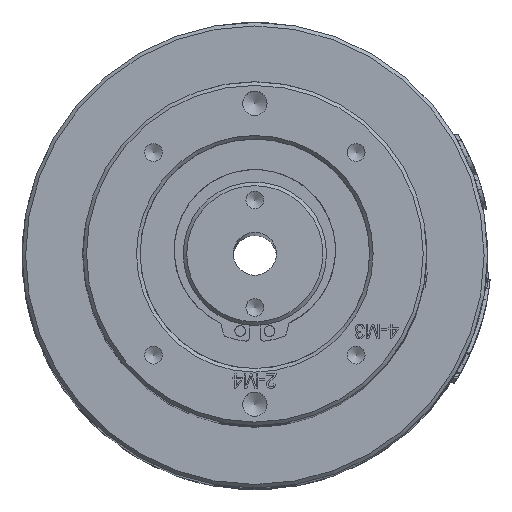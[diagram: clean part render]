
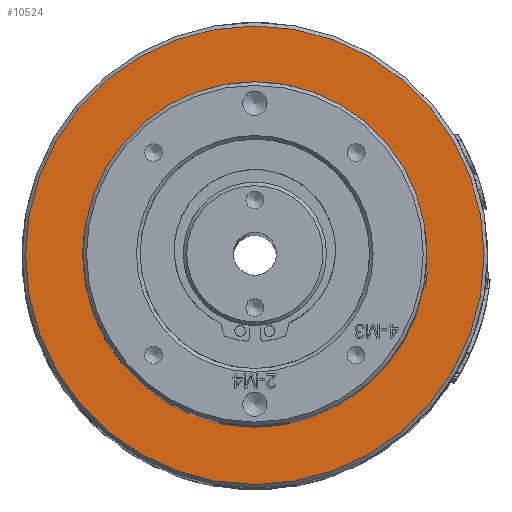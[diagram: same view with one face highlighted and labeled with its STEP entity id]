
A CAD part, top view. The second image highlights one B-rep face of the part: STEP entity #10524.
In plain terms, the highlighted planar face has unit normal (0, 0, 1).
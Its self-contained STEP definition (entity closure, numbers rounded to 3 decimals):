
#7550=PLANE('',#32967);
#10524=ADVANCED_FACE('',(#11923,#11924),#7550,.T.);
#11923=FACE_BOUND('',#13764,.T.);
#11924=FACE_BOUND('',#13765,.T.);
#13764=EDGE_LOOP('',(#19472));
#13765=EDGE_LOOP('',(#19473));
#19472=ORIENTED_EDGE('',*,*,#30086,.T.);
#19473=ORIENTED_EDGE('',*,*,#30087,.F.);
#25974=VERTEX_POINT('',#59094);
#25975=VERTEX_POINT('',#59096);
#30086=EDGE_CURVE('',#25974,#25974,#31597,.T.);
#30087=EDGE_CURVE('',#25975,#25975,#31598,.T.);
#31597=CIRCLE('',#32965,32.);
#31598=CIRCLE('',#32966,24.);
#32965=AXIS2_PLACEMENT_3D('',#59093,#37122,#37123);
#32966=AXIS2_PLACEMENT_3D('',#59095,#37124,#37125);
#32967=AXIS2_PLACEMENT_3D('',#59097,#37126,#37127);
#37122=DIRECTION('',(0.,0.,1.));
#37123=DIRECTION('',(1.,0.,0.));
#37124=DIRECTION('',(0.,0.,1.));
#37125=DIRECTION('',(1.,0.,0.));
#37126=DIRECTION('',(0.,0.,1.));
#37127=DIRECTION('',(1.,0.,0.));
#59093=CARTESIAN_POINT('',(0.,0.,139.));
#59094=CARTESIAN_POINT('',(32.,0.,139.));
#59095=CARTESIAN_POINT('',(0.,0.,139.));
#59096=CARTESIAN_POINT('',(24.,0.,139.));
#59097=CARTESIAN_POINT('',(-545.164,218.638,139.));
